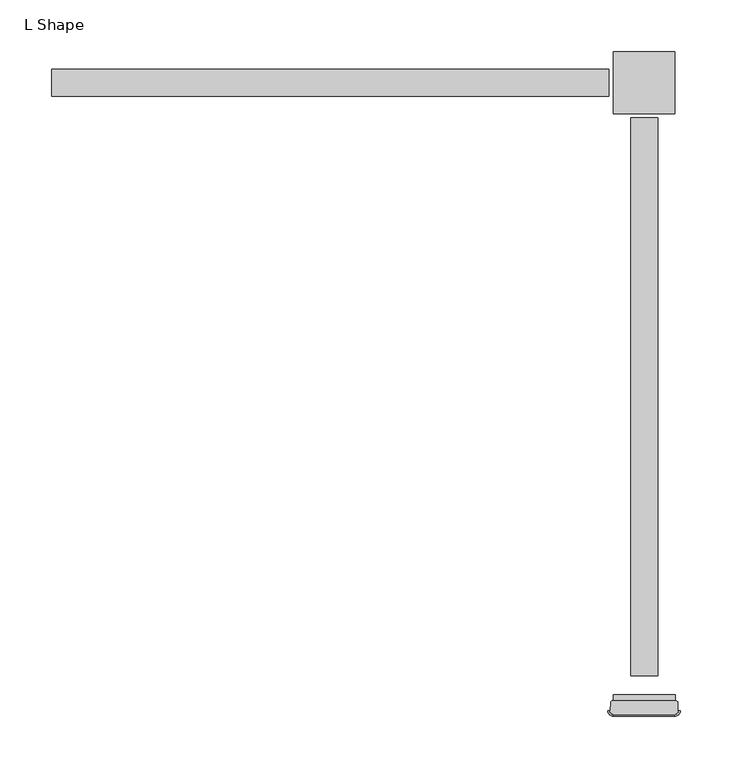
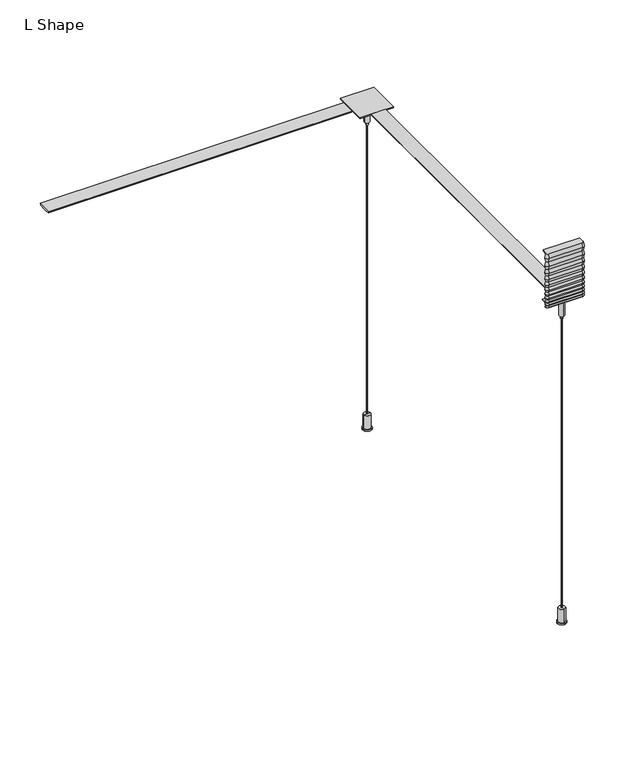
"""IFC4 building model written with IfcOpenShell, lengths in millimetres: light fixture geometry, Lighting-Pendant-Betacalco-Bellows-L_Shape : L Shape."""

from ifc_helpers import new_model, si_unit, point, frame, frame_2d, origin, place, context, project, spatial, polyline, circle_curve, trimmed, segment, composite_curve, outline, extrude, source, transform, mapped, element, save
from ifc_brep_helpers import plane_surface, cylinder_surface, revolved_surface, advanced_brep


def l_shape_a0c5f6b5(model_context):
    return source(origin(), model_context, "Body", "SolidModel", [
        extrude(outline(polyline([(334.6958, 30.1625), (334.6958, -30.1625), (274.9042, -30.1625), (274.9042, 30.1625), (334.6958, 30.1625)])), frame((0.0, 0.0, 612.648), z_axis=(0.0, 0.0, 1.0), x_axis=(1.0, 0.0, 0.0)), (0.0, 0.0, 1.0), 1.524),
        advanced_brep(
        [(312.8, 0.0, 0.0), (296.8, 0.0, 0.0), (296.8, 0.0, 2.05), (312.8, 0.0, 2.05), (298.8, 0.0, 2.05), (310.8, 0.0, 2.05), (298.8, 0.0, 27.4), (310.8, 0.0, 27.4), (304.8, 0.0, 27.4), (304.8, 0.0, 0.0)],
        [
            (0, 1, circle_curve(frame((304.8, 0.0, 0.0), z_axis=(0.0, 0.0, 1.0), x_axis=(-1.0, 0.0, 0.0)), 8.0)),
            (1, 2),
            (2, 3, circle_curve(frame((304.8, 0.0, 2.05), z_axis=(0.0, 0.0, -1.0), x_axis=(-1.0, 0.0, 0.0)), 8.0)),
            (3, 0),
            (1, 0, circle_curve(frame((304.8, 0.0, 0.0), z_axis=(0.0, 0.0, 1.0), x_axis=(-1.0, 0.0, 0.0)), 8.0)),
            (3, 2, circle_curve(frame((304.8, 0.0, 2.05), z_axis=(0.0, 0.0, -1.0), x_axis=(-1.0, 0.0, 0.0)), 8.0)),
            (2, 4),
            (4, 5, circle_curve(frame((304.8, 0.0, 2.05), z_axis=(0.0, 0.0, -1.0), x_axis=(-1.0, 0.0, 0.0)), 6.0)),
            (5, 3),
            (5, 4, circle_curve(frame((304.8, 0.0, 2.05), z_axis=(0.0, 0.0, -1.0), x_axis=(-1.0, 0.0, 0.0)), 6.0)),
            (4, 6),
            (6, 7, circle_curve(frame((304.8, 0.0, 27.4), z_axis=(0.0, 0.0, -1.0), x_axis=(-1.0, 0.0, 0.0)), 6.0)),
            (7, 5),
            (7, 6, circle_curve(frame((304.8, 0.0, 27.4), z_axis=(0.0, 0.0, -1.0), x_axis=(-1.0, 0.0, 0.0)), 6.0)),
            (6, 8),
            (8, 7),
            (9, 1),
            (0, 9),
        ],
        [
            cylinder_surface(frame((304.8, 0.0, 2366.7150031), z_axis=(0.0, 0.0, -1.0), x_axis=(-1.0, 0.0, 0.0)), 8.0),
            plane_surface(frame((304.8, 0.0, 2.05), z_axis=(0.0, 0.0, 1.0), x_axis=(-1.0, 0.0, 0.0))),
            cylinder_surface(frame((304.8, 0.0, 2366.7150031), z_axis=(0.0, 0.0, -1.0), x_axis=(-1.0, 0.0, 0.0)), 6.0),
            plane_surface(frame((304.8, 0.0, 27.4), z_axis=(0.0, 0.0, 1.0), x_axis=(-1.0, 0.0, 0.0))),
            plane_surface(frame((304.8, 0.0, 0.0), z_axis=(0.0, 0.0, -1.0), x_axis=(-1.0, 0.0, 0.0))),
        ],
        [
            (0, [[1, 2, 3, 4]]),
            (0, [[5, -4, 6, -2]]),
            (1, [[-3, 7, 8, 9]]),
            (1, [[-6, -9, 10, -7]]),
            (2, [[-8, 11, 12, 13]]),
            (2, [[-10, -13, 14, -11]]),
            (3, [[-12, 15, 16]]),
            (3, [[-14, -16, -15]]),
            (4, [[17, -1, 18]]),
            (4, [[-18, -5, -17]]),
        ],
    ),
        advanced_brep(
        [(305.5937476, 0.0, 27.4), (304.0062524, 0.0, 27.4), (304.0062524, 0.0, 572.93256), (305.5937476, 0.0, 572.93256), (304.8, 0.0, 27.4), (304.8, 0.0, 572.93256)],
        [
            (0, 1, circle_curve(frame((304.8, 0.0, 27.4), z_axis=(0.0, 0.0, 1.0), x_axis=(-1.0, 0.0, 0.0)), 0.7937476)),
            (1, 2),
            (2, 3, circle_curve(frame((304.8, 0.0, 572.93256), z_axis=(0.0, 0.0, -1.0), x_axis=(-1.0, 0.0, 0.0)), 0.7937476)),
            (3, 0),
            (1, 0, circle_curve(frame((304.8, 0.0, 27.4), z_axis=(0.0, 0.0, 1.0), x_axis=(-1.0, 0.0, 0.0)), 0.7937476)),
            (3, 2, circle_curve(frame((304.8, 0.0, 572.93256), z_axis=(0.0, 0.0, -1.0), x_axis=(-1.0, 0.0, 0.0)), 0.7937476)),
            (4, 1),
            (0, 4),
            (2, 5),
            (5, 3),
        ],
        [
            cylinder_surface(frame((304.8, 0.0, 2366.7150031), z_axis=(0.0, 0.0, -1.0), x_axis=(-1.0, 0.0, 0.0)), 0.7937476),
            plane_surface(frame((304.8, 0.0, 27.4), z_axis=(0.0, 0.0, -1.0), x_axis=(-1.0, 0.0, 0.0))),
            plane_surface(frame((304.8, 0.0, 572.93256), z_axis=(0.0, 0.0, 1.0), x_axis=(-1.0, 0.0, 0.0))),
        ],
        [
            (0, [[1, 2, 3, 4]]),
            (0, [[5, -4, 6, -2]]),
            (1, [[7, -1, 8]]),
            (1, [[-8, -5, -7]]),
            (2, [[-3, 9, 10]]),
            (2, [[-6, -10, -9]]),
        ],
    ),
        advanced_brep(
        [(309.2704, 0.0, 578.64756), (300.3296, 0.0, 578.64756), (300.3296, 0.0, 612.648), (309.2704, 0.0, 612.648), (306.7304, 0.0, 578.64756), (302.8696, 0.0, 578.64756), (306.7304, 0.0, 572.93256), (302.8696, 0.0, 572.93256), (304.8, 0.0, 572.93256), (304.8, 0.0, 612.648)],
        [
            (0, 1, circle_curve(frame((304.8, 0.0, 578.64756), z_axis=(0.0, 0.0, 1.0), x_axis=(-1.0, 0.0, 0.0)), 4.4704)),
            (1, 2),
            (2, 3, circle_curve(frame((304.8, 0.0, 612.648), z_axis=(0.0, 0.0, -1.0), x_axis=(-1.0, 0.0, 0.0)), 4.4704)),
            (3, 0),
            (1, 0, circle_curve(frame((304.8, 0.0, 578.64756), z_axis=(0.0, 0.0, 1.0), x_axis=(-1.0, 0.0, 0.0)), 4.4704)),
            (3, 2, circle_curve(frame((304.8, 0.0, 612.648), z_axis=(0.0, 0.0, -1.0), x_axis=(-1.0, 0.0, 0.0)), 4.4704)),
            (4, 5, circle_curve(frame((304.8, 0.0, 578.64756), z_axis=(0.0, 0.0, 1.0), x_axis=(-1.0, 0.0, 0.0)), 1.9304)),
            (5, 1),
            (0, 4),
            (5, 4, circle_curve(frame((304.8, 0.0, 578.64756), z_axis=(0.0, 0.0, 1.0), x_axis=(-1.0, 0.0, 0.0)), 1.9304)),
            (6, 7, circle_curve(frame((304.8, 0.0, 572.93256), z_axis=(0.0, 0.0, 1.0), x_axis=(-1.0, 0.0, 0.0)), 1.9304)),
            (7, 5),
            (4, 6),
            (7, 6, circle_curve(frame((304.8, 0.0, 572.93256), z_axis=(0.0, 0.0, 1.0), x_axis=(-1.0, 0.0, 0.0)), 1.9304)),
            (8, 7),
            (6, 8),
            (2, 9),
            (9, 3),
        ],
        [
            cylinder_surface(frame((304.8, 0.0, 2366.7150031), z_axis=(0.0, 0.0, -1.0), x_axis=(-1.0, 0.0, 0.0)), 4.4704),
            plane_surface(frame((304.8, 0.0, 578.64756), z_axis=(0.0, 0.0, -1.0), x_axis=(-1.0, 0.0, 0.0))),
            cylinder_surface(frame((304.8, 0.0, 2366.7150031), z_axis=(0.0, 0.0, -1.0), x_axis=(-1.0, 0.0, 0.0)), 1.9304),
            plane_surface(frame((304.8, 0.0, 572.93256), z_axis=(0.0, 0.0, -1.0), x_axis=(-1.0, 0.0, 0.0))),
            plane_surface(frame((304.8, 0.0, 612.648), z_axis=(0.0, 0.0, 1.0), x_axis=(-1.0, 0.0, 0.0))),
        ],
        [
            (0, [[1, 2, 3, 4]]),
            (0, [[5, -4, 6, -2]]),
            (1, [[7, 8, -1, 9]]),
            (1, [[10, -9, -5, -8]]),
            (2, [[11, 12, -7, 13]]),
            (2, [[14, -13, -10, -12]]),
            (3, [[15, -11, 16]]),
            (3, [[-16, -14, -15]]),
            (4, [[-3, 17, 18]]),
            (4, [[-6, -18, -17]]),
        ],
    ),
        extrude(outline(composite_curve([segment(trimmed(circle_curve(frame_2d((617.6899758, 295.0365915)), 3.0000001), [point((616.3504727, 292.3522421))], [point((614.7956432, 294.2473898))], False, "CARTESIAN"), True, "CONTINUOUS"), segment(trimmed(circle_curve(frame_2d((653.4964752, 304.8)), 40.113738), [point((614.7956432, 294.2473898))], [point((614.7956432, 315.3526102))], False, "CARTESIAN"), True, "CONTINUOUS"), segment(trimmed(circle_curve(frame_2d((617.6899758, 314.5634085)), 3.0000001), [point((614.7956432, 315.3526102))], [point((616.3504727, 317.2477579))], False, "CARTESIAN"), True, "CONTINUOUS"), segment(polyline([(616.3504727, 317.2477579), (617.6039135, 317.8732308), (617.6039135, 291.7267692), (616.3504727, 292.3522421)]), True, "CONTINUOUS")], self_intersect=False)), frame((0.0, -575.31, 0.0), z_axis=(0.0, 1.0, 0.0), x_axis=(0.0, 0.0, 1.0)), (0.0, 0.0, 1.0), 541.02),
        advanced_brep(
        [(339.9474913, -609.6, 611.632), (338.1694913, -609.6, 609.6), (271.4305087, -609.6, 609.6), (269.6525087, -609.6, 611.632), (271.4305087, -609.6, 613.664), (269.6525087, -609.6, 616.204), (271.4305087, -609.6, 618.744), (269.6525087, -609.6, 621.792), (271.4305087, -609.6, 624.84), (269.6525087, -609.6, 628.396), (271.4305087, -609.6, 631.952), (269.6525087, -609.6, 635.762), (271.4305087, -609.6, 639.572), (269.68115, -609.6, 644.0703509), (271.4033085, -609.6, 648.6460566), (269.6760032, -609.6, 653.7288728), (271.4080872, -609.6, 658.8119386), (269.6721122, -609.6, 664.402389), (271.4117251, -609.6, 669.9929656), (269.6691034, -609.6, 676.091104), (271.4151056, -609.6, 682.1911894), (269.6648295, -609.6, 689.3067168), (271.4184005, -609.6, 696.4195673), (269.6640174, -609.6, 703.786321), (271.4305087, -609.6, 711.2), (272.1770822, -609.6, 711.2), (272.1770822, -609.6, 709.8332722), (337.4229178, -609.6, 709.8332722), (337.4229178, -609.6, 711.2), (338.1694913, -609.6, 711.2), (339.9359826, -609.6, 703.786321), (338.1815995, -609.6, 696.4195673), (339.9351705, -609.6, 689.3067168), (338.1848944, -609.6, 682.1911894), (339.9308966, -609.6, 676.091104), (338.1882749, -609.6, 669.9929656), (339.9278878, -609.6, 664.402389), (338.1919128, -609.6, 658.8119386), (339.9239968, -609.6, 653.7288728), (338.1966915, -609.6, 648.6460566), (339.91885, -609.6, 644.0703509), (338.1694913, -609.6, 639.572), (339.9474913, -609.6, 635.762), (338.1694913, -609.6, 631.952), (339.9474913, -609.6, 628.396), (338.1694913, -609.6, 624.84), (339.9474913, -609.6, 621.792), (338.1694913, -609.6, 618.744), (339.9474913, -609.6, 616.204), (338.1694913, -609.6, 613.664), (334.7564913, -614.791, 611.632), (334.7564913, -613.013, 609.6), (274.8435087, -613.013, 609.6), (334.7564913, -613.013, 711.2), (337.3154703, -600.7807007, 711.2), (336.2000598, -599.6222216, 711.2), (273.3999402, -599.6222216, 711.2), (272.2845297, -600.7807007, 711.2), (274.8435087, -613.013, 711.2), (334.7564913, -614.7794913, 703.786321), (334.7564913, -613.0251082, 696.4195673), (334.7564913, -614.7786792, 689.3067168), (334.7564913, -613.0284031, 682.1911894), (334.7564913, -614.7744054, 676.091104), (334.7564913, -613.0317837, 669.9929656), (334.7564913, -614.7713965, 664.402389), (334.7564913, -613.0354215, 658.8119386), (334.7564913, -614.7675055, 653.7288728), (334.7564913, -613.0402002, 648.6460566), (334.7564913, -614.7623587, 644.0703509), (334.7564913, -613.013, 639.572), (334.7564913, -614.791, 635.762), (334.7564913, -613.013, 631.952), (334.7564913, -614.791, 628.396), (334.7564913, -613.013, 624.84), (334.7564913, -614.791, 621.792), (334.7564913, -613.013, 618.744), (334.7564913, -614.791, 616.204), (334.7564913, -613.013, 613.664), (274.8435087, -614.791, 611.632), (274.8435087, -614.7794913, 703.786321), (274.8435087, -613.0251082, 696.4195673), (274.8435087, -614.7786792, 689.3067168), (274.8435087, -613.0284031, 682.1911894), (274.8435087, -614.7744054, 676.091104), (274.8435087, -613.0317837, 669.9929656), (274.8435087, -614.7713965, 664.402389), (274.8435087, -613.0354215, 658.8119386), (274.8435087, -614.7675055, 653.7288728), (274.8435087, -613.0402002, 648.6460566), (274.8435087, -614.7623587, 644.0703509), (274.8435087, -613.013, 639.572), (274.8435087, -614.791, 635.762), (274.8435087, -613.013, 631.952), (274.8435087, -614.791, 628.396), (274.8435087, -613.013, 624.84), (274.8435087, -614.791, 621.792), (274.8435087, -613.013, 618.744), (274.8435087, -614.791, 616.204), (274.8435087, -613.013, 613.664), (273.3999402, -599.6222216, 709.8332722), (336.2000598, -599.6222216, 709.8332722), (337.3154703, -600.7807007, 709.8332722), (272.2845297, -600.7807007, 709.8332722)],
        [
            (0, 1),
            (1, 2),
            (2, 3),
            (3, 4),
            (4, 5),
            (5, 6),
            (6, 7),
            (7, 8),
            (8, 9),
            (9, 10),
            (10, 11),
            (11, 12),
            (12, 13),
            (13, 14),
            (14, 15),
            (15, 16),
            (16, 17),
            (17, 18),
            (18, 19),
            (19, 20),
            (20, 21),
            (21, 22),
            (22, 23),
            (23, 24),
            (24, 25),
            (25, 26),
            (26, 27),
            (27, 28),
            (28, 29),
            (29, 30),
            (30, 31),
            (31, 32),
            (32, 33),
            (33, 34),
            (34, 35),
            (35, 36),
            (36, 37),
            (37, 38),
            (38, 39),
            (39, 40),
            (40, 41),
            (41, 42),
            (42, 43),
            (43, 44),
            (44, 45),
            (45, 46),
            (46, 47),
            (47, 48),
            (48, 49),
            (49, 0),
            (0, 50, circle_curve(frame((334.7564913, -609.6, 611.632), z_axis=(0.0, 0.0, -1.0), x_axis=(1.0, 0.0, 0.0)), 5.191)),
            (50, 51),
            (51, 1, circle_curve(frame((334.7564913, -609.6, 609.6), z_axis=(0.0, 0.0, 1.0), x_axis=(1.0, 0.0, 0.0)), 3.413)),
            (51, 52),
            (52, 2, circle_curve(frame((274.8435087, -609.6, 609.6), z_axis=(0.0, 0.0, -1.0), x_axis=(0.0, -1.0, 0.0)), 3.413)),
            (53, 29, circle_curve(frame((334.7564913, -609.6, 711.2), z_axis=(0.0, 0.0, 1.0), x_axis=(1.0, 0.0, 0.0)), 3.413)),
            (28, 54),
            (54, 55),
            (55, 56),
            (56, 57),
            (57, 25),
            (24, 58, circle_curve(frame((274.8435087, -609.6, 711.2), z_axis=(0.0, 0.0, 1.0), x_axis=(0.0, -1.0, 0.0)), 3.413)),
            (58, 53),
            (53, 59),
            (59, 30, circle_curve(frame((334.7564913, -609.6, 703.786321), z_axis=(0.0, 0.0, 1.0), x_axis=(1.0, 0.0, 0.0)), 5.1794913)),
            (59, 60),
            (60, 31, circle_curve(frame((334.7564913, -609.6, 696.4195673), z_axis=(0.0, 0.0, 1.0), x_axis=(1.0, 0.0, 0.0)), 3.4251082)),
            (60, 61),
            (61, 32, circle_curve(frame((334.7564913, -609.6, 689.3067168), z_axis=(0.0, 0.0, 1.0), x_axis=(1.0, 0.0, 0.0)), 5.1786792)),
            (61, 62),
            (62, 33, circle_curve(frame((334.7564913, -609.6, 682.1911894), z_axis=(0.0, 0.0, 1.0), x_axis=(1.0, 0.0, 0.0)), 3.4284031)),
            (62, 63),
            (63, 34, circle_curve(frame((334.7564913, -609.6, 676.091104), z_axis=(0.0, 0.0, 1.0), x_axis=(1.0, 0.0, 0.0)), 5.1744054)),
            (63, 64),
            (64, 35, circle_curve(frame((334.7564913, -609.6, 669.9929656), z_axis=(0.0, 0.0, 1.0), x_axis=(1.0, 0.0, 0.0)), 3.4317837)),
            (64, 65),
            (65, 36, circle_curve(frame((334.7564913, -609.6, 664.402389), z_axis=(0.0, 0.0, 1.0), x_axis=(1.0, 0.0, 0.0)), 5.1713965)),
            (65, 66),
            (66, 37, circle_curve(frame((334.7564913, -609.6, 658.8119386), z_axis=(0.0, 0.0, 1.0), x_axis=(1.0, 0.0, 0.0)), 3.4354215)),
            (66, 67),
            (67, 38, circle_curve(frame((334.7564913, -609.6, 653.7288728), z_axis=(0.0, 0.0, 1.0), x_axis=(1.0, 0.0, 0.0)), 5.1675055)),
            (67, 68),
            (68, 39, circle_curve(frame((334.7564913, -609.6, 648.6460566), z_axis=(0.0, 0.0, 1.0), x_axis=(1.0, 0.0, 0.0)), 3.4402002)),
            (68, 69),
            (69, 40, circle_curve(frame((334.7564913, -609.6, 644.0703509), z_axis=(0.0, 0.0, 1.0), x_axis=(1.0, 0.0, 0.0)), 5.1623587)),
            (69, 70),
            (70, 41, circle_curve(frame((334.7564913, -609.6, 639.572), z_axis=(0.0, 0.0, 1.0), x_axis=(1.0, 0.0, 0.0)), 3.413)),
            (70, 71),
            (71, 42, circle_curve(frame((334.7564913, -609.6, 635.762), z_axis=(0.0, 0.0, 1.0), x_axis=(1.0, 0.0, 0.0)), 5.191)),
            (71, 72),
            (72, 43, circle_curve(frame((334.7564913, -609.6, 631.952), z_axis=(0.0, 0.0, 1.0), x_axis=(1.0, 0.0, 0.0)), 3.413)),
            (72, 73),
            (73, 44, circle_curve(frame((334.7564913, -609.6, 628.396), z_axis=(0.0, 0.0, 1.0), x_axis=(1.0, 0.0, 0.0)), 5.191)),
            (73, 74),
            (74, 45, circle_curve(frame((334.7564913, -609.6, 624.84), z_axis=(0.0, 0.0, 1.0), x_axis=(1.0, 0.0, 0.0)), 3.413)),
            (74, 75),
            (75, 46, circle_curve(frame((334.7564913, -609.6, 621.792), z_axis=(0.0, 0.0, 1.0), x_axis=(1.0, 0.0, 0.0)), 5.191)),
            (75, 76),
            (76, 47, circle_curve(frame((334.7564913, -609.6, 618.744), z_axis=(0.0, 0.0, 1.0), x_axis=(1.0, 0.0, 0.0)), 3.413)),
            (76, 77),
            (77, 48, circle_curve(frame((334.7564913, -609.6, 616.204), z_axis=(0.0, 0.0, 1.0), x_axis=(1.0, 0.0, 0.0)), 5.191)),
            (77, 78),
            (78, 49, circle_curve(frame((334.7564913, -609.6, 613.664), z_axis=(0.0, 0.0, 1.0), x_axis=(1.0, 0.0, 0.0)), 3.413)),
            (78, 50),
            (50, 79),
            (79, 52),
            (58, 80),
            (80, 59),
            (80, 81),
            (81, 60),
            (81, 82),
            (82, 61),
            (82, 83),
            (83, 62),
            (83, 84),
            (84, 63),
            (84, 85),
            (85, 64),
            (85, 86),
            (86, 65),
            (86, 87),
            (87, 66),
            (87, 88),
            (88, 67),
            (88, 89),
            (89, 68),
            (89, 90),
            (90, 69),
            (90, 91),
            (91, 70),
            (91, 92),
            (92, 71),
            (92, 93),
            (93, 72),
            (93, 94),
            (94, 73),
            (94, 95),
            (95, 74),
            (95, 96),
            (96, 75),
            (96, 97),
            (97, 76),
            (97, 98),
            (98, 77),
            (98, 99),
            (99, 78),
            (99, 79),
            (100, 101),
            (101, 102),
            (102, 27),
            (26, 103),
            (103, 100),
            (56, 100),
            (103, 57),
            (102, 54),
            (101, 55),
            (79, 3, circle_curve(frame((274.8435087, -609.6, 611.632), z_axis=(0.0, 0.0, -1.0), x_axis=(0.0, -1.0, 0.0)), 5.191)),
            (23, 80, circle_curve(frame((274.8435087, -609.6, 703.786321), z_axis=(0.0, 0.0, 1.0), x_axis=(0.0, -1.0, 0.0)), 5.1794913)),
            (22, 81, circle_curve(frame((274.8435087, -609.6, 696.4195673), z_axis=(0.0, 0.0, 1.0), x_axis=(0.0, -1.0, 0.0)), 3.4251082)),
            (21, 82, circle_curve(frame((274.8435087, -609.6, 689.3067168), z_axis=(0.0, 0.0, 1.0), x_axis=(0.0, -1.0, 0.0)), 5.1786792)),
            (20, 83, circle_curve(frame((274.8435087, -609.6, 682.1911894), z_axis=(0.0, 0.0, 1.0), x_axis=(0.0, -1.0, 0.0)), 3.4284031)),
            (19, 84, circle_curve(frame((274.8435087, -609.6, 676.091104), z_axis=(0.0, 0.0, 1.0), x_axis=(0.0, -1.0, 0.0)), 5.1744054)),
            (18, 85, circle_curve(frame((274.8435087, -609.6, 669.9929656), z_axis=(0.0, 0.0, 1.0), x_axis=(0.0, -1.0, 0.0)), 3.4317837)),
            (17, 86, circle_curve(frame((274.8435087, -609.6, 664.402389), z_axis=(0.0, 0.0, 1.0), x_axis=(0.0, -1.0, 0.0)), 5.1713965)),
            (16, 87, circle_curve(frame((274.8435087, -609.6, 658.8119386), z_axis=(0.0, 0.0, 1.0), x_axis=(0.0, -1.0, 0.0)), 3.4354215)),
            (15, 88, circle_curve(frame((274.8435087, -609.6, 653.7288728), z_axis=(0.0, 0.0, 1.0), x_axis=(0.0, -1.0, 0.0)), 5.1675055)),
            (14, 89, circle_curve(frame((274.8435087, -609.6, 648.6460566), z_axis=(0.0, 0.0, 1.0), x_axis=(0.0, -1.0, 0.0)), 3.4402002)),
            (13, 90, circle_curve(frame((274.8435087, -609.6, 644.0703509), z_axis=(0.0, 0.0, 1.0), x_axis=(0.0, -1.0, 0.0)), 5.1623587)),
            (12, 91, circle_curve(frame((274.8435087, -609.6, 639.572), z_axis=(0.0, 0.0, 1.0), x_axis=(0.0, -1.0, 0.0)), 3.413)),
            (11, 92, circle_curve(frame((274.8435087, -609.6, 635.762), z_axis=(0.0, 0.0, 1.0), x_axis=(0.0, -1.0, 0.0)), 5.191)),
            (10, 93, circle_curve(frame((274.8435087, -609.6, 631.952), z_axis=(0.0, 0.0, 1.0), x_axis=(0.0, -1.0, 0.0)), 3.413)),
            (9, 94, circle_curve(frame((274.8435087, -609.6, 628.396), z_axis=(0.0, 0.0, 1.0), x_axis=(0.0, -1.0, 0.0)), 5.191)),
            (8, 95, circle_curve(frame((274.8435087, -609.6, 624.84), z_axis=(0.0, 0.0, 1.0), x_axis=(0.0, -1.0, 0.0)), 3.413)),
            (7, 96, circle_curve(frame((274.8435087, -609.6, 621.792), z_axis=(0.0, 0.0, 1.0), x_axis=(0.0, -1.0, 0.0)), 5.191)),
            (6, 97, circle_curve(frame((274.8435087, -609.6, 618.744), z_axis=(0.0, 0.0, 1.0), x_axis=(0.0, -1.0, 0.0)), 3.413)),
            (5, 98, circle_curve(frame((274.8435087, -609.6, 616.204), z_axis=(0.0, 0.0, 1.0), x_axis=(0.0, -1.0, 0.0)), 5.191)),
            (4, 99, circle_curve(frame((274.8435087, -609.6, 613.664), z_axis=(0.0, 0.0, 1.0), x_axis=(0.0, -1.0, 0.0)), 3.413)),
        ],
        [
            plane_surface(frame((340.1935941, -609.6, 609.6), z_axis=(0.0, 1.0, 0.0), x_axis=(0.0, 0.0, 1.0))),
            revolved_surface(polyline([(339.9474913, -609.6, 611.632), (338.1694913, -609.6, 609.6)]), (334.7564913, -609.6, 609.6), (0.0, 0.0, -1.0)),
            plane_surface(frame((334.7564913, -609.6, 609.6), z_axis=(0.0, 0.0, -1.0), x_axis=(1.0, 0.0, 0.0))),
            plane_surface(frame((334.7564913, -609.6, 711.2), z_axis=(0.0, 0.0, 1.0), x_axis=(1.0, 0.0, 0.0))),
            revolved_surface(polyline([(338.1694913, -609.6, 711.2), (339.9359826, -609.6, 703.786321)]), (334.7564913, -609.6, 609.6), (0.0, 0.0, -1.0)),
            revolved_surface(polyline([(339.9359826, -609.6, 703.786321), (338.1815995, -609.6, 696.4195673)]), (334.7564913, -609.6, 609.6), (0.0, 0.0, -1.0)),
            revolved_surface(polyline([(338.1815995, -609.6, 696.4195673), (339.9351705, -609.6, 689.3067168)]), (334.7564913, -609.6, 609.6), (0.0, 0.0, -1.0)),
            revolved_surface(polyline([(339.9351705, -609.6, 689.3067168), (338.1848944, -609.6, 682.1911894)]), (334.7564913, -609.6, 609.6), (0.0, 0.0, -1.0)),
            revolved_surface(polyline([(338.1848944, -609.6, 682.1911894), (339.9308966, -609.6, 676.091104)]), (334.7564913, -609.6, 609.6), (0.0, 0.0, -1.0)),
            revolved_surface(polyline([(339.9308966, -609.6, 676.091104), (338.1882749, -609.6, 669.9929656)]), (334.7564913, -609.6, 609.6), (0.0, 0.0, -1.0)),
            revolved_surface(polyline([(338.1882749, -609.6, 669.9929656), (339.9278878, -609.6, 664.402389)]), (334.7564913, -609.6, 609.6), (0.0, 0.0, -1.0)),
            revolved_surface(polyline([(339.9278878, -609.6, 664.402389), (338.1919128, -609.6, 658.8119386)]), (334.7564913, -609.6, 609.6), (0.0, 0.0, -1.0)),
            revolved_surface(polyline([(338.1919128, -609.6, 658.8119386), (339.9239968, -609.6, 653.7288728)]), (334.7564913, -609.6, 609.6), (0.0, 0.0, -1.0)),
            revolved_surface(polyline([(339.9239968, -609.6, 653.7288728), (338.1966915, -609.6, 648.6460566)]), (334.7564913, -609.6, 609.6), (0.0, 0.0, -1.0)),
            revolved_surface(polyline([(338.1966915, -609.6, 648.6460566), (339.91885, -609.6, 644.0703509)]), (334.7564913, -609.6, 609.6), (0.0, 0.0, -1.0)),
            revolved_surface(polyline([(339.91885, -609.6, 644.0703509), (338.1694913, -609.6, 639.572)]), (334.7564913, -609.6, 609.6), (0.0, 0.0, -1.0)),
            revolved_surface(polyline([(338.1694913, -609.6, 639.572), (339.9474913, -609.6, 635.762)]), (334.7564913, -609.6, 609.6), (0.0, 0.0, -1.0)),
            revolved_surface(polyline([(339.9474913, -609.6, 635.762), (338.1694913, -609.6, 631.952)]), (334.7564913, -609.6, 609.6), (0.0, 0.0, -1.0)),
            revolved_surface(polyline([(338.1694913, -609.6, 631.952), (339.9474913, -609.6, 628.396)]), (334.7564913, -609.6, 609.6), (0.0, 0.0, -1.0)),
            revolved_surface(polyline([(339.9474913, -609.6, 628.396), (338.1694913, -609.6, 624.84)]), (334.7564913, -609.6, 609.6), (0.0, 0.0, -1.0)),
            revolved_surface(polyline([(338.1694913, -609.6, 624.84), (339.9474913, -609.6, 621.792)]), (334.7564913, -609.6, 609.6), (0.0, 0.0, -1.0)),
            revolved_surface(polyline([(339.9474913, -609.6, 621.792), (338.1694913, -609.6, 618.744)]), (334.7564913, -609.6, 609.6), (0.0, 0.0, -1.0)),
            revolved_surface(polyline([(338.1694913, -609.6, 618.744), (339.9474913, -609.6, 616.204)]), (334.7564913, -609.6, 609.6), (0.0, 0.0, -1.0)),
            revolved_surface(polyline([(339.9474913, -609.6, 616.204), (338.1694913, -609.6, 613.664)]), (334.7564913, -609.6, 609.6), (0.0, 0.0, -1.0)),
            revolved_surface(polyline([(338.1694913, -609.6, 613.664), (339.9474913, -609.6, 611.632)]), (334.7564913, -609.6, 609.6), (0.0, 0.0, -1.0)),
            plane_surface(frame((334.7564913, -614.791, 611.632), z_axis=(0.0, -0.7525766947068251, -0.6585046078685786), x_axis=(-1.0, 0.0, 0.0))),
            plane_surface(frame((334.7564913, -613.013, 711.2), z_axis=(0.0, -0.9727668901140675, 0.23178562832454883), x_axis=(-1.0, 0.0, 0.0))),
            plane_surface(frame((334.7564913, -614.7794913, 703.786321), z_axis=(0.0, -0.9727944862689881, -0.23166978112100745), x_axis=(-1.0, 0.0, 0.0))),
            plane_surface(frame((334.7564913, -613.0251082, 696.4195673), z_axis=(0.0, -0.9709287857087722, 0.23936852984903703), x_axis=(-1.0, 0.0, 0.0))),
            plane_surface(frame((334.7564913, -614.7786792, 689.3067168), z_axis=(0.0, -0.9710540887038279, -0.23885970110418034), x_axis=(-1.0, 0.0, 0.0))),
            plane_surface(frame((334.7564913, -613.0284031, 682.1911894), z_axis=(0.0, -0.9613939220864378, 0.27517581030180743), x_axis=(-1.0, 0.0, 0.0))),
            plane_surface(frame((334.7564913, -614.7744054, 676.091104), z_axis=(0.0, -0.9615116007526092, -0.2747643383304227), x_axis=(-1.0, 0.0, 0.0))),
            plane_surface(frame((334.7564913, -613.0317837, 669.9929656), z_axis=(0.0, -0.9548411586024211, 0.29711674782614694), x_axis=(-1.0, 0.0, 0.0))),
            plane_surface(frame((334.7564913, -614.7713965, 664.402389), z_axis=(0.0, -0.9550153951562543, -0.29655622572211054), x_axis=(-1.0, 0.0, 0.0))),
            plane_surface(frame((334.7564913, -613.0354215, 658.8119386), z_axis=(0.0, -0.9465545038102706, 0.3225439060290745), x_axis=(-1.0, 0.0, 0.0))),
            plane_surface(frame((334.7564913, -614.7675055, 653.7288728), z_axis=(0.0, -0.9468211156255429, -0.3217604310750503), x_axis=(-1.0, 0.0, 0.0))),
            plane_surface(frame((334.7564913, -613.0402002, 648.6460566), z_axis=(0.0, -0.9359069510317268, 0.3522473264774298), x_axis=(-1.0, 0.0, 0.0))),
            plane_surface(frame((334.7564913, -614.7623587, 644.0703509), z_axis=(0.0, -0.9320046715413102, -0.36244626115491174), x_axis=(-1.0, 0.0, 0.0))),
            plane_surface(frame((334.7564913, -613.013, 639.572), z_axis=(0.0, -0.9061831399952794, 0.42288546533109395), x_axis=(-1.0, 0.0, 0.0))),
            plane_surface(frame((334.7564913, -614.791, 635.762), z_axis=(0.0, -0.9061831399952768, -0.42288546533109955), x_axis=(-1.0, 0.0, 0.0))),
            plane_surface(frame((334.7564913, -613.013, 631.952), z_axis=(0.0, -0.8944271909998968, 0.4472135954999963), x_axis=(-1.0, 0.0, 0.0))),
            plane_surface(frame((334.7564913, -614.791, 628.396), z_axis=(0.0, -0.8944271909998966, -0.44721359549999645), x_axis=(-1.0, 0.0, 0.0))),
            plane_surface(frame((334.7564913, -613.013, 624.84), z_axis=(0.0, -0.8637789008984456, 0.5038710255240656), x_axis=(-1.0, 0.0, 0.0))),
            plane_surface(frame((334.7564913, -614.791, 621.792), z_axis=(0.0, -0.8637789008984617, -0.503871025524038), x_axis=(-1.0, 0.0, 0.0))),
            plane_surface(frame((334.7564913, -613.013, 618.744), z_axis=(0.0, -0.8192319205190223, 0.5734623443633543), x_axis=(-1.0, 0.0, 0.0))),
            plane_surface(frame((334.7564913, -614.791, 616.204), z_axis=(0.0, -0.8192319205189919, -0.5734623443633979), x_axis=(-1.0, 0.0, 0.0))),
            plane_surface(frame((334.7564913, -613.013, 613.664), z_axis=(0.0, -0.7525766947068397, 0.6585046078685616), x_axis=(-1.0, 0.0, 0.0))),
            plane_surface(frame((273.3999402, -599.6222216, 709.8332722), z_axis=(0.0, 0.0, -1.0), x_axis=(0.6935894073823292, 0.7203705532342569, 0.0))),
            plane_surface(frame((273.3999402, -599.6222216, 711.2), z_axis=(-0.7203705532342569, 0.6935894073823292, 0.0), x_axis=(0.0, 0.0, -1.0))),
            plane_surface(frame((272.2845297, -600.7807007, 711.2), z_axis=(-0.9999257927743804, 0.012182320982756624, 0.0), x_axis=(0.0, 0.0, -1.0))),
            plane_surface(frame((337.4229178, -609.6, 711.2), z_axis=(0.9999257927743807, 0.012182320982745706, 0.0), x_axis=(0.0, 0.0, -1.0))),
            plane_surface(frame((337.3154703, -600.7807007, 711.2), z_axis=(0.7203705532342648, 0.693589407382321, 0.0), x_axis=(0.0, 0.0, -1.0))),
            plane_surface(frame((336.2000598, -599.6222216, 711.2), z_axis=(0.0, 1.0, 0.0), x_axis=(0.0, 0.0, -1.0))),
            revolved_surface(polyline([(274.8435087, -614.791, 611.632), (274.8435087, -613.013, 609.6)]), (274.8435087, -609.6, 609.6), (0.0, 0.0, -1.0)),
            revolved_surface(polyline([(274.8435087, -613.013, 711.2), (274.8435087, -614.7794913, 703.786321)]), (274.8435087, -609.6, 609.6), (0.0, 0.0, -1.0)),
            revolved_surface(polyline([(274.8435087, -614.7794913, 703.786321), (274.8435087, -613.0251082, 696.4195673)]), (274.8435087, -609.6, 609.6), (0.0, 0.0, -1.0)),
            revolved_surface(polyline([(274.8435087, -613.0251082, 696.4195673), (274.8435087, -614.7786792, 689.3067168)]), (274.8435087, -609.6, 609.6), (0.0, 0.0, -1.0)),
            revolved_surface(polyline([(274.8435087, -614.7786792, 689.3067168), (274.8435087, -613.0284031, 682.1911894)]), (274.8435087, -609.6, 609.6), (0.0, 0.0, -1.0)),
            revolved_surface(polyline([(274.8435087, -613.0284031, 682.1911894), (274.8435087, -614.7744054, 676.091104)]), (274.8435087, -609.6, 609.6), (0.0, 0.0, -1.0)),
            revolved_surface(polyline([(274.8435087, -614.7744054, 676.091104), (274.8435087, -613.0317837, 669.9929656)]), (274.8435087, -609.6, 609.6), (0.0, 0.0, -1.0)),
            revolved_surface(polyline([(274.8435087, -613.0317837, 669.9929656), (274.8435087, -614.7713965, 664.402389)]), (274.8435087, -609.6, 609.6), (0.0, 0.0, -1.0)),
            revolved_surface(polyline([(274.8435087, -614.7713965, 664.402389), (274.8435087, -613.0354215, 658.8119386)]), (274.8435087, -609.6, 609.6), (0.0, 0.0, -1.0)),
            revolved_surface(polyline([(274.8435087, -613.0354215, 658.8119386), (274.8435087, -614.7675055, 653.7288728)]), (274.8435087, -609.6, 609.6), (0.0, 0.0, -1.0)),
            revolved_surface(polyline([(274.8435087, -614.7675055, 653.7288728), (274.8435087, -613.0402002, 648.6460566)]), (274.8435087, -609.6, 609.6), (0.0, 0.0, -1.0)),
            revolved_surface(polyline([(274.8435087, -613.0402002, 648.6460566), (274.8435087, -614.7623587, 644.0703509)]), (274.8435087, -609.6, 609.6), (0.0, 0.0, -1.0)),
            revolved_surface(polyline([(274.8435087, -614.7623587, 644.0703509), (274.8435087, -613.013, 639.572)]), (274.8435087, -609.6, 609.6), (0.0, 0.0, -1.0)),
            revolved_surface(polyline([(274.8435087, -613.013, 639.572), (274.8435087, -614.791, 635.762)]), (274.8435087, -609.6, 609.6), (0.0, 0.0, -1.0)),
            revolved_surface(polyline([(274.8435087, -614.791, 635.762), (274.8435087, -613.013, 631.952)]), (274.8435087, -609.6, 609.6), (0.0, 0.0, -1.0)),
            revolved_surface(polyline([(274.8435087, -613.013, 631.952), (274.8435087, -614.791, 628.396)]), (274.8435087, -609.6, 609.6), (0.0, 0.0, -1.0)),
            revolved_surface(polyline([(274.8435087, -614.791, 628.396), (274.8435087, -613.013, 624.84)]), (274.8435087, -609.6, 609.6), (0.0, 0.0, -1.0)),
            revolved_surface(polyline([(274.8435087, -613.013, 624.84), (274.8435087, -614.791, 621.792)]), (274.8435087, -609.6, 609.6), (0.0, 0.0, -1.0)),
            revolved_surface(polyline([(274.8435087, -614.791, 621.792), (274.8435087, -613.013, 618.744)]), (274.8435087, -609.6, 609.6), (0.0, 0.0, -1.0)),
            revolved_surface(polyline([(274.8435087, -613.013, 618.744), (274.8435087, -614.791, 616.204)]), (274.8435087, -609.6, 609.6), (0.0, 0.0, -1.0)),
            revolved_surface(polyline([(274.8435087, -614.791, 616.204), (274.8435087, -613.013, 613.664)]), (274.8435087, -609.6, 609.6), (0.0, 0.0, -1.0)),
            revolved_surface(polyline([(274.8435087, -613.013, 613.664), (274.8435087, -614.791, 611.632)]), (274.8435087, -609.6, 609.6), (0.0, 0.0, -1.0)),
        ],
        [
            (0, [[1, 2, 3, 4, 5, 6, 7, 8, 9, 10, 11, 12, 13, 14, 15, 16, 17, 18, 19, 20, 21, 22, 23, 24, 25, 26, 27, 28, 29, 30, 31, 32, 33, 34, 35, 36, 37, 38, 39, 40, 41, 42, 43, 44, 45, 46, 47, 48, 49, 50]]),
            (1, [[-1, 51, 52, 53]]),
            (2, [[-2, -53, 54, 55]]),
            (3, [[56, -29, 57, 58, 59, 60, 61, -25, 62, 63]]),
            (4, [[-30, -56, 64, 65]]),
            (5, [[-31, -65, 66, 67]]),
            (6, [[-32, -67, 68, 69]]),
            (7, [[-33, -69, 70, 71]]),
            (8, [[-34, -71, 72, 73]]),
            (9, [[-35, -73, 74, 75]]),
            (10, [[-36, -75, 76, 77]]),
            (11, [[-37, -77, 78, 79]]),
            (12, [[-38, -79, 80, 81]]),
            (13, [[-39, -81, 82, 83]]),
            (14, [[-40, -83, 84, 85]]),
            (15, [[-41, -85, 86, 87]]),
            (16, [[-42, -87, 88, 89]]),
            (17, [[-43, -89, 90, 91]]),
            (18, [[-44, -91, 92, 93]]),
            (19, [[-45, -93, 94, 95]]),
            (20, [[-46, -95, 96, 97]]),
            (21, [[-47, -97, 98, 99]]),
            (22, [[-48, -99, 100, 101]]),
            (23, [[-49, -101, 102, 103]]),
            (24, [[-50, -103, 104, -51]]),
            (25, [[-52, 105, 106, -54]]),
            (26, [[-63, 107, 108, -64]]),
            (27, [[-66, -108, 109, 110]]),
            (28, [[-68, -110, 111, 112]]),
            (29, [[-70, -112, 113, 114]]),
            (30, [[-72, -114, 115, 116]]),
            (31, [[-74, -116, 117, 118]]),
            (32, [[-76, -118, 119, 120]]),
            (33, [[-78, -120, 121, 122]]),
            (34, [[-80, -122, 123, 124]]),
            (35, [[-82, -124, 125, 126]]),
            (36, [[-84, -126, 127, 128]]),
            (37, [[-86, -128, 129, 130]]),
            (38, [[-88, -130, 131, 132]]),
            (39, [[-90, -132, 133, 134]]),
            (40, [[-92, -134, 135, 136]]),
            (41, [[-94, -136, 137, 138]]),
            (42, [[-96, -138, 139, 140]]),
            (43, [[-98, -140, 141, 142]]),
            (44, [[-100, -142, 143, 144]]),
            (45, [[-102, -144, 145, 146]]),
            (46, [[-104, -146, 147, -105]]),
            (47, [[148, 149, 150, -27, 151, 152]]),
            (48, [[-60, 153, -152, 154]]),
            (49, [[-61, -154, -151, -26]]),
            (50, [[-57, -28, -150, 155]]),
            (51, [[-58, -155, -149, 156]]),
            (52, [[-59, -156, -148, -153]]),
            (53, [[-55, -106, 157, -3]]),
            (54, [[-62, -24, 158, -107]]),
            (55, [[-109, -158, -23, 159]]),
            (56, [[-111, -159, -22, 160]]),
            (57, [[-113, -160, -21, 161]]),
            (58, [[-115, -161, -20, 162]]),
            (59, [[-117, -162, -19, 163]]),
            (60, [[-119, -163, -18, 164]]),
            (61, [[-121, -164, -17, 165]]),
            (62, [[-123, -165, -16, 166]]),
            (63, [[-125, -166, -15, 167]]),
            (64, [[-127, -167, -14, 168]]),
            (65, [[-129, -168, -13, 169]]),
            (66, [[-131, -169, -12, 170]]),
            (67, [[-133, -170, -11, 171]]),
            (68, [[-135, -171, -10, 172]]),
            (69, [[-137, -172, -9, 173]]),
            (70, [[-139, -173, -8, 174]]),
            (71, [[-141, -174, -7, 175]]),
            (72, [[-143, -175, -6, 176]]),
            (73, [[-145, -176, -5, 177]]),
            (74, [[-147, -177, -4, -157]]),
        ],
    ),
        extrude(outline(composite_curve([segment(trimmed(circle_curve(frame_2d((9.7634085, 617.6899758)), 3.0000001), [point((12.4477579, 616.3504727))], [point((10.5526102, 614.7956432))], False, "CARTESIAN"), True, "CONTINUOUS"), segment(trimmed(circle_curve(frame_2d((0.0, 653.4964752)), 40.113738), [point((10.5526102, 614.7956432))], [point((-10.5526102, 614.7956432))], False, "CARTESIAN"), True, "CONTINUOUS"), segment(trimmed(circle_curve(frame_2d((-9.7634085, 617.6899758)), 3.0000001), [point((-10.5526102, 614.7956432))], [point((-12.4477579, 616.3504727))], False, "CARTESIAN"), True, "CONTINUOUS"), segment(polyline([(-12.4477579, 616.3504727), (-13.0732308, 617.6039135), (13.0732308, 617.6039135), (12.4477579, 616.3504727)]), True, "CONTINUOUS")], self_intersect=False)), frame((-270.51, 0.0, 0.0), z_axis=(1.0, 0.0, 0.0), x_axis=(0.0, 1.0, 0.0)), (0.0, 0.0, 1.0), 541.02),
        extrude(outline(polyline([(274.9042, -593.725), (335.2292, -593.725), (335.2292, -609.6), (274.9042, -609.6), (274.9042, -593.725)])), frame((0.0, 0.0, 612.648), z_axis=(0.0, 0.0, 1.0), x_axis=(1.0, 0.0, 0.0)), (0.0, 0.0, 1.0), 1.524),
        advanced_brep(
        [(304.8, -593.6625, 0.0), (304.8, -609.6625, 0.0), (304.8, -609.6625, 2.05), (304.8, -593.6625, 2.05), (304.8, -607.6625, 2.05), (304.8, -595.6625, 2.05), (304.8, -607.6625, 27.4), (304.8, -595.6625, 27.4), (304.8, -601.6625, 27.4), (304.8, -601.6625, 0.0)],
        [
            (0, 1, circle_curve(frame((304.8, -601.6625, 0.0), z_axis=(0.0, 0.0, 1.0), x_axis=(0.0, -1.0, 0.0)), 8.0)),
            (1, 2),
            (2, 3, circle_curve(frame((304.8, -601.6625, 2.05), z_axis=(0.0, 0.0, -1.0), x_axis=(0.0, -1.0, 0.0)), 8.0)),
            (3, 0),
            (1, 0, circle_curve(frame((304.8, -601.6625, 0.0), z_axis=(0.0, 0.0, 1.0), x_axis=(0.0, -1.0, 0.0)), 8.0)),
            (3, 2, circle_curve(frame((304.8, -601.6625, 2.05), z_axis=(0.0, 0.0, -1.0), x_axis=(0.0, -1.0, 0.0)), 8.0)),
            (2, 4),
            (4, 5, circle_curve(frame((304.8, -601.6625, 2.05), z_axis=(0.0, 0.0, -1.0), x_axis=(0.0, -1.0, 0.0)), 6.0)),
            (5, 3),
            (5, 4, circle_curve(frame((304.8, -601.6625, 2.05), z_axis=(0.0, 0.0, -1.0), x_axis=(0.0, -1.0, 0.0)), 6.0)),
            (4, 6),
            (6, 7, circle_curve(frame((304.8, -601.6625, 27.4), z_axis=(0.0, 0.0, -1.0), x_axis=(0.0, -1.0, 0.0)), 6.0)),
            (7, 5),
            (7, 6, circle_curve(frame((304.8, -601.6625, 27.4), z_axis=(0.0, 0.0, -1.0), x_axis=(0.0, -1.0, 0.0)), 6.0)),
            (6, 8),
            (8, 7),
            (9, 1),
            (0, 9),
        ],
        [
            cylinder_surface(frame((304.8, -601.6625, 2366.7150031), z_axis=(0.0, 0.0, -1.0), x_axis=(0.0, -1.0, 0.0)), 8.0),
            plane_surface(frame((304.8, -601.6625, 2.05), z_axis=(0.0, 0.0, 1.0), x_axis=(0.0, -1.0, 0.0))),
            cylinder_surface(frame((304.8, -601.6625, 2366.7150031), z_axis=(0.0, 0.0, -1.0), x_axis=(0.0, -1.0, 0.0)), 6.0),
            plane_surface(frame((304.8, -601.6625, 27.4), z_axis=(0.0, 0.0, 1.0), x_axis=(0.0, -1.0, 0.0))),
            plane_surface(frame((304.8, -601.6625, 0.0), z_axis=(0.0, 0.0, -1.0), x_axis=(0.0, -1.0, 0.0))),
        ],
        [
            (0, [[1, 2, 3, 4]]),
            (0, [[5, -4, 6, -2]]),
            (1, [[-3, 7, 8, 9]]),
            (1, [[-6, -9, 10, -7]]),
            (2, [[-8, 11, 12, 13]]),
            (2, [[-10, -13, 14, -11]]),
            (3, [[-12, 15, 16]]),
            (3, [[-14, -16, -15]]),
            (4, [[17, -1, 18]]),
            (4, [[-18, -5, -17]]),
        ],
    ),
        advanced_brep(
        [(304.8, -600.8687524, 27.4), (304.8, -602.4562476, 27.4), (304.8, -602.4562476, 572.93256), (304.8, -600.8687524, 572.93256), (304.8, -601.6625, 27.4), (304.8, -601.6625, 572.93256)],
        [
            (0, 1, circle_curve(frame((304.8, -601.6625, 27.4), z_axis=(0.0, 0.0, 1.0), x_axis=(0.0, -1.0, 0.0)), 0.7937476)),
            (1, 2),
            (2, 3, circle_curve(frame((304.8, -601.6625, 572.93256), z_axis=(0.0, 0.0, -1.0), x_axis=(0.0, -1.0, 0.0)), 0.7937476)),
            (3, 0),
            (1, 0, circle_curve(frame((304.8, -601.6625, 27.4), z_axis=(0.0, 0.0, 1.0), x_axis=(0.0, -1.0, 0.0)), 0.7937476)),
            (3, 2, circle_curve(frame((304.8, -601.6625, 572.93256), z_axis=(0.0, 0.0, -1.0), x_axis=(0.0, -1.0, 0.0)), 0.7937476)),
            (4, 1),
            (0, 4),
            (2, 5),
            (5, 3),
        ],
        [
            cylinder_surface(frame((304.8, -601.6625, 2366.7150031), z_axis=(0.0, 0.0, -1.0), x_axis=(0.0, -1.0, 0.0)), 0.7937476),
            plane_surface(frame((304.8, -601.6625, 27.4), z_axis=(0.0, 0.0, -1.0), x_axis=(0.0, -1.0, 0.0))),
            plane_surface(frame((304.8, -601.6625, 572.93256), z_axis=(0.0, 0.0, 1.0), x_axis=(0.0, -1.0, 0.0))),
        ],
        [
            (0, [[1, 2, 3, 4]]),
            (0, [[5, -4, 6, -2]]),
            (1, [[7, -1, 8]]),
            (1, [[-8, -5, -7]]),
            (2, [[-3, 9, 10]]),
            (2, [[-6, -10, -9]]),
        ],
    ),
        advanced_brep(
        [(304.8, -597.1921, 578.64756), (304.8, -606.1329, 578.64756), (304.8, -606.1329, 612.648), (304.8, -597.1921, 612.648), (304.8, -599.7321, 578.64756), (304.8, -603.5929, 578.64756), (304.8, -599.7321, 572.93256), (304.8, -603.5929, 572.93256), (304.8, -601.6625, 572.93256), (304.8, -601.6625, 612.648)],
        [
            (0, 1, circle_curve(frame((304.8, -601.6625, 578.64756), z_axis=(0.0, 0.0, 1.0), x_axis=(0.0, -1.0, 0.0)), 4.4704)),
            (1, 2),
            (2, 3, circle_curve(frame((304.8, -601.6625, 612.648), z_axis=(0.0, 0.0, -1.0), x_axis=(0.0, -1.0, 0.0)), 4.4704)),
            (3, 0),
            (1, 0, circle_curve(frame((304.8, -601.6625, 578.64756), z_axis=(0.0, 0.0, 1.0), x_axis=(0.0, -1.0, 0.0)), 4.4704)),
            (3, 2, circle_curve(frame((304.8, -601.6625, 612.648), z_axis=(0.0, 0.0, -1.0), x_axis=(0.0, -1.0, 0.0)), 4.4704)),
            (4, 5, circle_curve(frame((304.8, -601.6625, 578.64756), z_axis=(0.0, 0.0, 1.0), x_axis=(0.0, -1.0, 0.0)), 1.9304)),
            (5, 1),
            (0, 4),
            (5, 4, circle_curve(frame((304.8, -601.6625, 578.64756), z_axis=(0.0, 0.0, 1.0), x_axis=(0.0, -1.0, 0.0)), 1.9304)),
            (6, 7, circle_curve(frame((304.8, -601.6625, 572.93256), z_axis=(0.0, 0.0, 1.0), x_axis=(0.0, -1.0, 0.0)), 1.9304)),
            (7, 5),
            (4, 6),
            (7, 6, circle_curve(frame((304.8, -601.6625, 572.93256), z_axis=(0.0, 0.0, 1.0), x_axis=(0.0, -1.0, 0.0)), 1.9304)),
            (8, 7),
            (6, 8),
            (2, 9),
            (9, 3),
        ],
        [
            cylinder_surface(frame((304.8, -601.6625, 2366.7150031), z_axis=(0.0, 0.0, -1.0), x_axis=(0.0, -1.0, 0.0)), 4.4704),
            plane_surface(frame((304.8, -601.6625, 578.64756), z_axis=(0.0, 0.0, -1.0), x_axis=(0.0, -1.0, 0.0))),
            cylinder_surface(frame((304.8, -601.6625, 2366.7150031), z_axis=(0.0, 0.0, -1.0), x_axis=(0.0, -1.0, 0.0)), 1.9304),
            plane_surface(frame((304.8, -601.6625, 572.93256), z_axis=(0.0, 0.0, -1.0), x_axis=(0.0, -1.0, 0.0))),
            plane_surface(frame((304.8, -601.6625, 612.648), z_axis=(0.0, 0.0, 1.0), x_axis=(0.0, -1.0, 0.0))),
        ],
        [
            (0, [[1, 2, 3, 4]]),
            (0, [[5, -4, 6, -2]]),
            (1, [[7, 8, -1, 9]]),
            (1, [[10, -9, -5, -8]]),
            (2, [[11, 12, -7, 13]]),
            (2, [[14, -13, -10, -12]]),
            (3, [[15, -11, 16]]),
            (3, [[-16, -14, -15]]),
            (4, [[-3, 17, 18]]),
            (4, [[-6, -18, -17]]),
        ],
    ),
    ])


if __name__ == "__main__":
    model = new_model("IFC4")
    model_context = context("Model", 3, world=origin())
    ifc_project = project(units=[si_unit("LENGTHUNIT", "METRE", prefix="MILLI")], contexts=[model_context])
    site = spatial("IfcSite", under=ifc_project)
    building = spatial("IfcBuilding", under=site)
    placement = place(None, origin())
    l_shape_shape = l_shape_a0c5f6b5(model_context)
    element("IfcLightFixture", 1, ObjectType="Lighting-Pendant-Betacalco-Bellows-L_Shape : L Shape", at=placement, inside=building, context=model_context, shape_type="MappedRepresentation", body=[
        mapped(l_shape_shape, transform((0.0, 0.0, 0.0), x_axis=(1.0, 0.0, 0.0), y_axis=(0.0, 1.0, 0.0), z_axis=(0.0, 0.0, 1.0))),
    ])
    save(model, "model.ifc")
